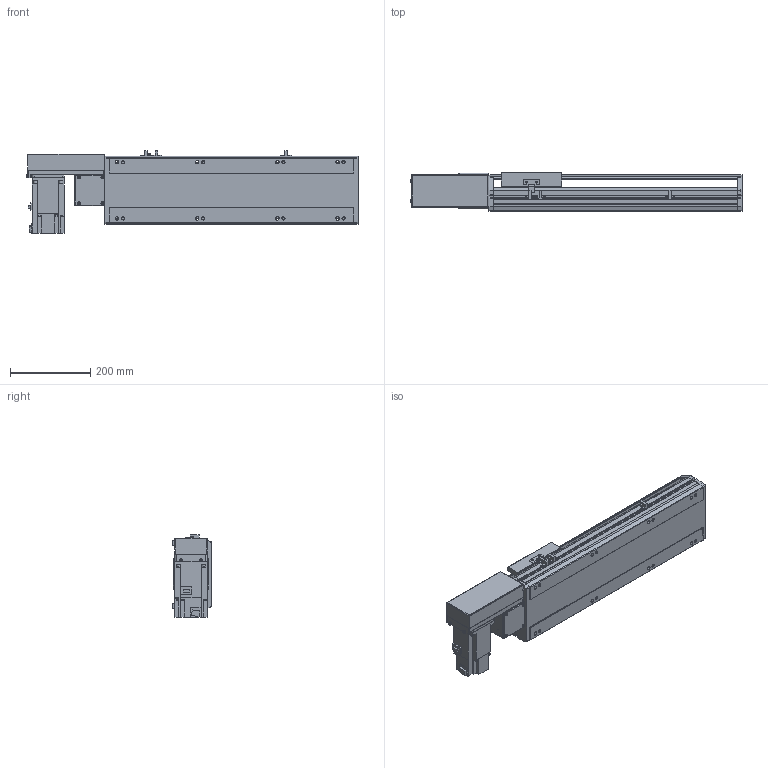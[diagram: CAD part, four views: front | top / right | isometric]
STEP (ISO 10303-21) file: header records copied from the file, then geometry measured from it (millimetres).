
FILE_DESCRIPTION( ( 'STEP AP214' ), '1' );
FILE_NAME( 'x:/temp/worker_4/temp/exporttempdir_2248_253_r5apE/format_0/PBS170-P40-S350-R-T75-C1-N(0).stp', '2022-06-07T07:29:02', ( 'License CC BY-ND 4.0' ), ( 'CADENAS' ), ' ', 'PARTsolutions', ' ' );
FILE_SCHEMA( ( 'AUTOMOTIVE_DESIGN { 1 0 10303 214 1 1 1 1 }' ) );
Length unit declared in the file: millimetre
Products named in the file (7): PBS170-P40-S350-R-T75-C1-N(0); _PBS170-S350()_body; _PBS170T-R_motors; _T75-p1; _PBS170_sliser; _PBS170_plant; _PBS170_sensor
Assembly tree (8 placements, depth 2):
  PBS170-P40-S350-R-T75-C1-N(0)
    _PBS170-S350()_body
    _PBS170T-R_motors
    _T75-p1
    _PBS170_sliser
    _PBS170_plant
    _PBS170_sensor  x3
Bounding box: 828 x 97 x 205.3 mm (x, y, z)
Volume: 6359559.9 mm3; surface area: 881161.6 mm2
Topology: 8 solids, 8 shells, 1018 faces, 2715 edges, 1770 vertices
Faces by surface type: plane 663, cylinder 307, cone 38, sphere 8, torus 2
Full cylindrical faces by diameter (mm): 3.242 x4, 4 x2, 4.4 x4, 4.5 x6, 4.917 x4, 6 x9, 6.647 x16, 7 x2, 7.5 x4, 8 x8, 8.5 x8, 10 x4, 10.5 x8, 11 x2, 30 x2, 40 x1, 70 x1
Entity records: 37172 total; most frequent: CARTESIAN_POINT 5549, DIRECTION 5020, ORIENTED_EDGE 4788, EDGE_CURVE 2394, AXIS2_PLACEMENT_3D 1717, VERTEX_POINT 1634, LINE 1586, VECTOR 1586
